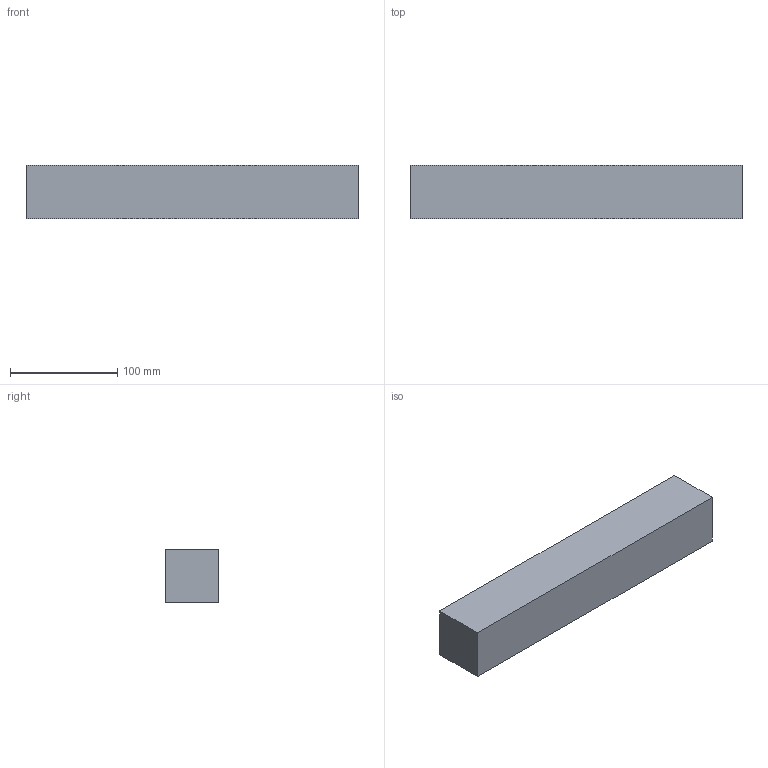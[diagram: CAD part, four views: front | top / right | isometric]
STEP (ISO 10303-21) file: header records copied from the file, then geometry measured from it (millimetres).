
FILE_DESCRIPTION(('Open CASCADE Model'),'2;1');
FILE_NAME('Open CASCADE Shape Model','2026-09-28T10:14:08',('Author'),( 'Open CASCADE'),'Open CASCADE STEP processor 7.9','Open CASCADE 7.9' ,'Unknown');
FILE_SCHEMA(('AUTOMOTIVE_DESIGN { 1 0 10303 214 1 1 1 1 }'));
Length unit declared in the file: millimetre
Products named in the file (1): Open CASCADE STEP translator 7.9 24
Bounding box: 309.75 x 50 x 50 mm (x, y, z)
Volume: 774375 mm3; surface area: 66950 mm2
Topology: 1 solids, 1 shells, 6 faces, 12 edges, 8 vertices
Faces by surface type: plane 6
Entity records: 322 total; most frequent: CARTESIAN_POINT 51, DIRECTION 50, LINE 36, VECTOR 36, ORIENTED_EDGE 24, PCURVE 24, DEFINITIONAL_REPRESENTATION 24, EDGE_CURVE 12
